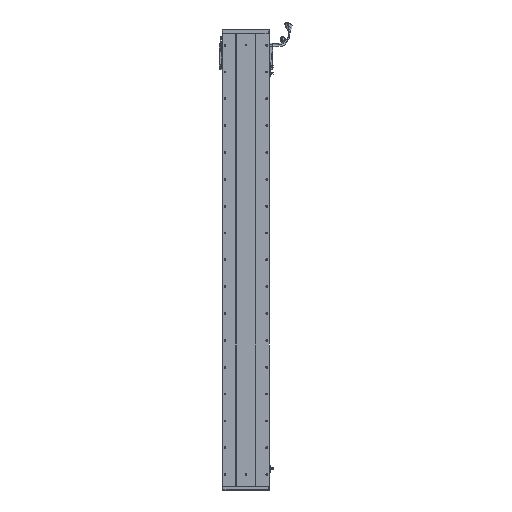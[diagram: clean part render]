
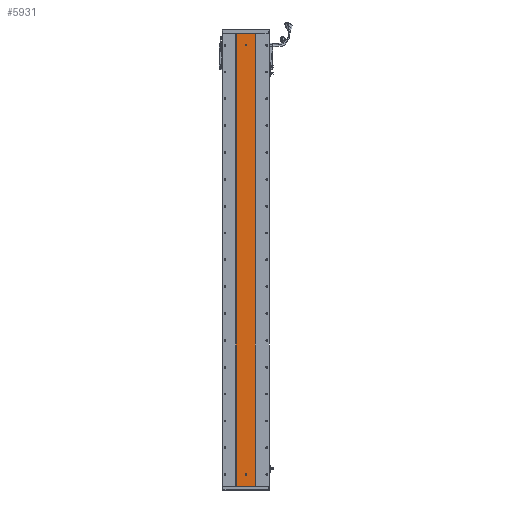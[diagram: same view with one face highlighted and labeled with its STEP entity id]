
A CAD part, front view. The second image highlights one B-rep face of the part: STEP entity #5931.
In plain terms, the highlighted planar face has unit normal (0, -1, 0).
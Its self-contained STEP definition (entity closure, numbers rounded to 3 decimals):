
#3616 = CIRCLE ( 'NONE', #96342, 3. ) ;
#4704 = ORIENTED_EDGE ( 'NONE', *, *, #78504, .F. ) ;
#4776 = CARTESIAN_POINT ( 'NONE',  ( 3244.748, 1415.701, 1687. ) ) ;
#5117 = PLANE ( 'NONE',  #7669 ) ;
#5332 = ORIENTED_EDGE ( 'NONE', *, *, #59635, .F. ) ;
#5931 = ADVANCED_FACE ( 'NONE', ( #40824, #56991, #73133 ), #5117, .F. ) ;
#6619 = ORIENTED_EDGE ( 'NONE', *, *, #9699, .F. ) ;
#7669 = AXIS2_PLACEMENT_3D ( 'NONE', #4776, #83310, #100355 ) ;
#7817 = EDGE_LOOP ( 'NONE', ( #23075, #6619, #8170, #32150, #44619 ) ) ;
#8170 = ORIENTED_EDGE ( 'NONE', *, *, #53332, .F. ) ;
#9374 = LINE ( 'NONE', #17204, #44166 ) ;
#9699 = EDGE_CURVE ( 'NONE', #31240, #66840, #92094, .T. ) ;
#11061 = CARTESIAN_POINT ( 'NONE',  ( 3244.748, 1415.701, 0. ) ) ;
#13619 = DIRECTION ( 'NONE',  ( 0., 0., -1. ) ) ;
#13621 = CIRCLE ( 'NONE', #64064, 3. ) ;
#16037 = CARTESIAN_POINT ( 'NONE',  ( 3280.529, 1415.701, 39. ) ) ;
#16993 = VERTEX_POINT ( 'NONE', #94110 ) ;
#17204 = CARTESIAN_POINT ( 'NONE',  ( 3244.748, 1415.701, 1687. ) ) ;
#17224 = EDGE_CURVE ( 'NONE', #74039, #85387, #94683, .T. ) ;
#17631 = EDGE_CURVE ( 'NONE', #88783, #45340, #69675, .T. ) ;
#17973 = VECTOR ( 'NONE', #84085, 1000. ) ;
#18413 = CARTESIAN_POINT ( 'NONE',  ( 3277.529, 1415.701, 45. ) ) ;
#18601 = CARTESIAN_POINT ( 'NONE',  ( 3277.529, 1415.701, 42. ) ) ;
#20276 = EDGE_CURVE ( 'NONE', #66840, #88783, #66932, .T. ) ;
#22015 = AXIS2_PLACEMENT_3D ( 'NONE', #62823, #93846, #38207 ) ;
#22525 = EDGE_LOOP ( 'NONE', ( #60653, #4704 ) ) ;
#22676 = CARTESIAN_POINT ( 'NONE',  ( 3277.529, 1415.701, 45. ) ) ;
#22956 = CARTESIAN_POINT ( 'NONE',  ( 3244.748, 1415.701, 1687. ) ) ;
#23075 = ORIENTED_EDGE ( 'NONE', *, *, #20276, .F. ) ;
#24918 = CARTESIAN_POINT ( 'NONE',  ( 3280.529, 1415.701, 1643.5 ) ) ;
#25386 = VERTEX_POINT ( 'NONE', #50472 ) ;
#27092 = EDGE_CURVE ( 'NONE', #45340, #102300, #95061, .T. ) ;
#27159 = CARTESIAN_POINT ( 'NONE',  ( 3283.529, 1415.701, 45. ) ) ;
#29797 = EDGE_CURVE ( 'NONE', #77315, #74039, #102221, .T. ) ;
#31240 = VERTEX_POINT ( 'NONE', #22676 ) ;
#32150 = ORIENTED_EDGE ( 'NONE', *, *, #27092, .F. ) ;
#32854 = DIRECTION ( 'NONE',  ( 0., 0., -1. ) ) ;
#34675 = DIRECTION ( 'NONE',  ( 1., 0., 0. ) ) ;
#35069 = DIRECTION ( 'NONE',  ( 0., 0., -1. ) ) ;
#38207 = DIRECTION ( 'NONE',  ( 0., 0., -1. ) ) ;
#38671 = CARTESIAN_POINT ( 'NONE',  ( 3283.529, 1415.701, 42. ) ) ;
#38769 = EDGE_CURVE ( 'NONE', #25386, #85387, #100311, .T. ) ;
#40824 = FACE_BOUND ( 'NONE', #7817, .T. ) ;
#41152 = DIRECTION ( 'NONE',  ( 0., -1., 0. ) ) ;
#44166 = VECTOR ( 'NONE', #88751, 1000. ) ;
#44619 = ORIENTED_EDGE ( 'NONE', *, *, #17631, .F. ) ;
#44709 = DIRECTION ( 'NONE',  ( 0., -1., 0. ) ) ;
#45340 = VERTEX_POINT ( 'NONE', #38671 ) ;
#45734 = CARTESIAN_POINT ( 'NONE',  ( 3280.529, 1415.701, 1643.5 ) ) ;
#48111 = CARTESIAN_POINT ( 'NONE',  ( 3316.311, 1415.701, 0. ) ) ;
#50472 = CARTESIAN_POINT ( 'NONE',  ( 3316.311, 1415.701, 1687. ) ) ;
#50651 = DIRECTION ( 'NONE',  ( 0., 0., -1. ) ) ;
#53332 = EDGE_CURVE ( 'NONE', #102300, #31240, #3616, .T. ) ;
#53501 = VECTOR ( 'NONE', #50651, 1000. ) ;
#56838 = CARTESIAN_POINT ( 'NONE',  ( 3244.748, 1415.701, 0. ) ) ;
#56991 = FACE_BOUND ( 'NONE', #22525, .T. ) ;
#59635 = EDGE_CURVE ( 'NONE', #77315, #25386, #9374, .T. ) ;
#60653 = ORIENTED_EDGE ( 'NONE', *, *, #63806, .F. ) ;
#61165 = DIRECTION ( 'NONE',  ( 0., -1., 0. ) ) ;
#62823 = CARTESIAN_POINT ( 'NONE',  ( 3280.529, 1415.701, 42. ) ) ;
#63310 = ORIENTED_EDGE ( 'NONE', *, *, #17224, .T. ) ;
#63806 = EDGE_CURVE ( 'NONE', #71457, #16993, #92016, .T. ) ;
#64064 = AXIS2_PLACEMENT_3D ( 'NONE', #24918, #88842, #32854 ) ;
#64787 = DIRECTION ( 'NONE',  ( 0., 0., -1. ) ) ;
#66840 = VERTEX_POINT ( 'NONE', #18601 ) ;
#66932 = CIRCLE ( 'NONE', #22015, 3. ) ;
#67940 = ORIENTED_EDGE ( 'NONE', *, *, #38769, .F. ) ;
#68312 = CARTESIAN_POINT ( 'NONE',  ( 3280.529, 1415.701, 1640.5 ) ) ;
#69675 = CIRCLE ( 'NONE', #91717, 3. ) ;
#71457 = VERTEX_POINT ( 'NONE', #68312 ) ;
#73133 = FACE_OUTER_BOUND ( 'NONE', #96628, .T. ) ;
#73467 = VECTOR ( 'NONE', #34675, 1000. ) ;
#73566 = VECTOR ( 'NONE', #95612, 1000. ) ;
#74039 = VERTEX_POINT ( 'NONE', #56838 ) ;
#74291 = CARTESIAN_POINT ( 'NONE',  ( 3283.529, 1415.701, 45. ) ) ;
#77315 = VERTEX_POINT ( 'NONE', #22956 ) ;
#78504 = EDGE_CURVE ( 'NONE', #16993, #71457, #13621, .T. ) ;
#79901 = CARTESIAN_POINT ( 'NONE',  ( 3244.748, 1415.701, 1687. ) ) ;
#82322 = AXIS2_PLACEMENT_3D ( 'NONE', #45734, #44709, #100333 ) ;
#82701 = CARTESIAN_POINT ( 'NONE',  ( 3316.311, 1415.701, 1687. ) ) ;
#83173 = ORIENTED_EDGE ( 'NONE', *, *, #29797, .T. ) ;
#83310 = DIRECTION ( 'NONE',  ( 0., 1., 0. ) ) ;
#84085 = DIRECTION ( 'NONE',  ( 0., 0., 1. ) ) ;
#85387 = VERTEX_POINT ( 'NONE', #48111 ) ;
#88751 = DIRECTION ( 'NONE',  ( 1., 0., 0. ) ) ;
#88783 = VERTEX_POINT ( 'NONE', #16037 ) ;
#88812 = CARTESIAN_POINT ( 'NONE',  ( 3280.529, 1415.701, 42. ) ) ;
#88842 = DIRECTION ( 'NONE',  ( 0., -1., 0. ) ) ;
#91717 = AXIS2_PLACEMENT_3D ( 'NONE', #88812, #41152, #64787 ) ;
#92016 = CIRCLE ( 'NONE', #82322, 3. ) ;
#92094 = LINE ( 'NONE', #18413, #53501 ) ;
#92530 = CARTESIAN_POINT ( 'NONE',  ( 3280.529, 1415.701, 45. ) ) ;
#92875 = VECTOR ( 'NONE', #35069, 1000. ) ;
#93846 = DIRECTION ( 'NONE',  ( 0., -1., 0. ) ) ;
#94110 = CARTESIAN_POINT ( 'NONE',  ( 3280.529, 1415.701, 1646.5 ) ) ;
#94683 = LINE ( 'NONE', #11061, #73467 ) ;
#95061 = LINE ( 'NONE', #27159, #17973 ) ;
#95612 = DIRECTION ( 'NONE',  ( 0., 0., -1. ) ) ;
#96342 = AXIS2_PLACEMENT_3D ( 'NONE', #92530, #61165, #13619 ) ;
#96628 = EDGE_LOOP ( 'NONE', ( #63310, #67940, #5332, #83173 ) ) ;
#100311 = LINE ( 'NONE', #82701, #92875 ) ;
#100333 = DIRECTION ( 'NONE',  ( 0., 0., -1. ) ) ;
#100355 = DIRECTION ( 'NONE',  ( 0., 0., 1. ) ) ;
#102221 = LINE ( 'NONE', #79901, #73566 ) ;
#102300 = VERTEX_POINT ( 'NONE', #74291 ) ;
